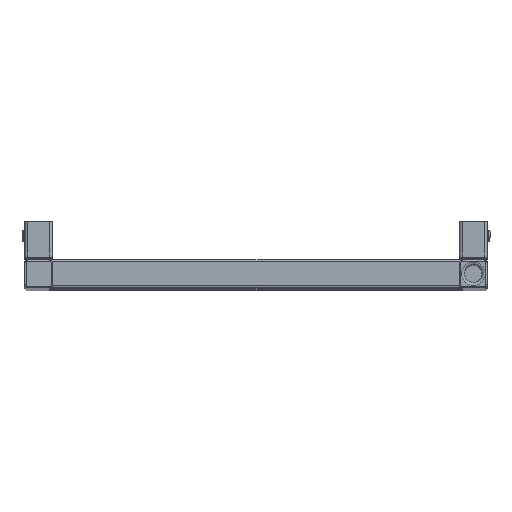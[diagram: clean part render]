
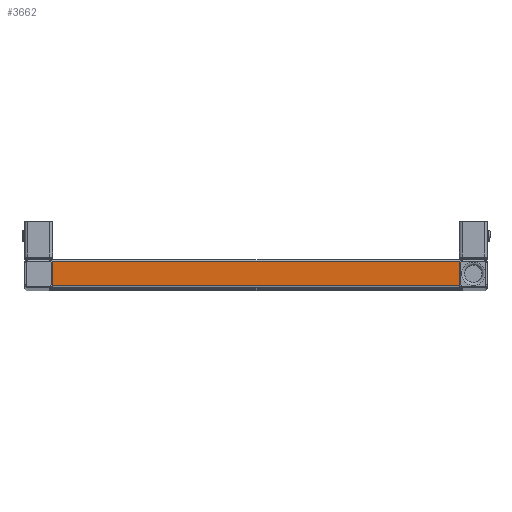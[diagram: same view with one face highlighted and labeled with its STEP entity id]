
A CAD part, top view. The second image highlights one B-rep face of the part: STEP entity #3662.
In plain terms, the highlighted planar face has unit normal (0, 0, 1).
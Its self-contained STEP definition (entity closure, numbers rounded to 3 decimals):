
#3587=CARTESIAN_POINT('',(0.0,-13.,1875.0));
#3588=DIRECTION('',(0.0,0.0,1.0));
#3589=DIRECTION('',(1.0,0.0,0.0));
#3590=AXIS2_PLACEMENT_3D('',#3587,#3588,#3589);
#3591=PLANE('',#3590);
#3592=CARTESIAN_POINT('',(220.172,13.,1875.0));
#3593=VERTEX_POINT('',#3592);
#3594=CARTESIAN_POINT('',(220.,12.,1875.0));
#3595=VERTEX_POINT('',#3594);
#3596=CARTESIAN_POINT('',(223.,12.,1875.0));
#3597=DIRECTION('',(0.0,0.0,1.0));
#3598=DIRECTION('',(0.0,1.0,0.0));
#3599=AXIS2_PLACEMENT_3D('',#3596,#3597,#3598);
#3600=CIRCLE('',#3599,3.);
#3601=EDGE_CURVE('',#3593,#3595,#3600,.T.);
#3602=ORIENTED_EDGE('',*,*,#3601,.F.);
#3603=CARTESIAN_POINT('',(-220.172,13.,1875.0));
#3604=VERTEX_POINT('',#3603);
#3605=CARTESIAN_POINT('',(220.172,13.,1875.0));
#3606=DIRECTION('',(-1.0,0.0,0.0));
#3607=VECTOR('',#3606,440.343);
#3608=LINE('',#3605,#3607);
#3609=EDGE_CURVE('',#3593,#3604,#3608,.T.);
#3610=ORIENTED_EDGE('',*,*,#3609,.T.);
#3611=CARTESIAN_POINT('',(-220.,12.,1875.0));
#3612=VERTEX_POINT('',#3611);
#3613=CARTESIAN_POINT('',(-223.,12.,1875.0));
#3614=DIRECTION('',(0.0,0.0,1.0));
#3615=DIRECTION('',(1.0,0.0,0.0));
#3616=AXIS2_PLACEMENT_3D('',#3613,#3614,#3615);
#3617=CIRCLE('',#3616,3.);
#3618=EDGE_CURVE('',#3612,#3604,#3617,.T.);
#3619=ORIENTED_EDGE('',*,*,#3618,.F.);
#3620=CARTESIAN_POINT('',(-220.,-12.,1875.0));
#3621=VERTEX_POINT('',#3620);
#3622=CARTESIAN_POINT('',(-220.,-12.,1875.0));
#3623=DIRECTION('',(0.0,1.0,0.0));
#3624=VECTOR('',#3623,24.);
#3625=LINE('',#3622,#3624);
#3626=EDGE_CURVE('',#3621,#3612,#3625,.T.);
#3627=ORIENTED_EDGE('',*,*,#3626,.F.);
#3628=CARTESIAN_POINT('',(-220.172,-13.,1875.0));
#3629=VERTEX_POINT('',#3628);
#3630=CARTESIAN_POINT('',(-223.,-12.,1875.0));
#3631=DIRECTION('',(0.0,0.0,1.0));
#3632=DIRECTION('',(0.0,-1.0,0.0));
#3633=AXIS2_PLACEMENT_3D('',#3630,#3631,#3632);
#3634=CIRCLE('',#3633,3.0);
#3635=EDGE_CURVE('',#3629,#3621,#3634,.T.);
#3636=ORIENTED_EDGE('',*,*,#3635,.F.);
#3637=CARTESIAN_POINT('',(220.172,-13.,1875.0));
#3638=VERTEX_POINT('',#3637);
#3639=CARTESIAN_POINT('',(220.172,-13.,1875.0));
#3640=DIRECTION('',(-1.0,0.0,0.0));
#3641=VECTOR('',#3640,440.343);
#3642=LINE('',#3639,#3641);
#3643=EDGE_CURVE('',#3638,#3629,#3642,.T.);
#3644=ORIENTED_EDGE('',*,*,#3643,.F.);
#3645=CARTESIAN_POINT('',(220.,-12.,1875.0));
#3646=VERTEX_POINT('',#3645);
#3647=CARTESIAN_POINT('',(223.,-12.,1875.0));
#3648=DIRECTION('',(0.0,0.0,1.0));
#3649=DIRECTION('',(-1.0,0.0,0.0));
#3650=AXIS2_PLACEMENT_3D('',#3647,#3648,#3649);
#3651=CIRCLE('',#3650,3.0);
#3652=EDGE_CURVE('',#3646,#3638,#3651,.T.);
#3653=ORIENTED_EDGE('',*,*,#3652,.F.);
#3654=CARTESIAN_POINT('',(220.,12.,1875.0));
#3655=DIRECTION('',(0.0,-1.0,0.0));
#3656=VECTOR('',#3655,24.);
#3657=LINE('',#3654,#3656);
#3658=EDGE_CURVE('',#3595,#3646,#3657,.T.);
#3659=ORIENTED_EDGE('',*,*,#3658,.F.);
#3660=EDGE_LOOP('',(#3602,#3610,#3619,#3627,#3636,#3644,#3653,#3659));
#3661=FACE_OUTER_BOUND('',#3660,.T.);
#3662=ADVANCED_FACE('',(#3661),#3591,.T.);
